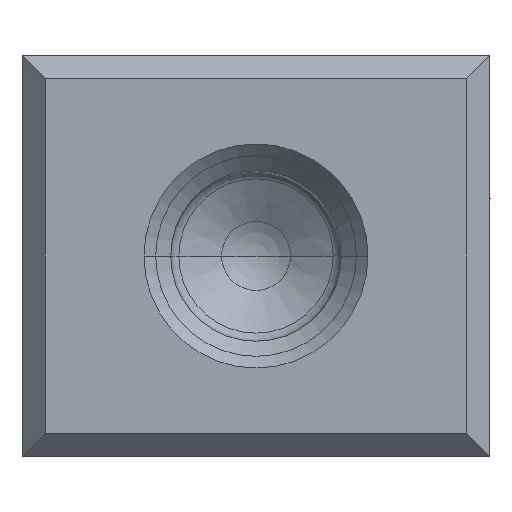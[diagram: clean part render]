
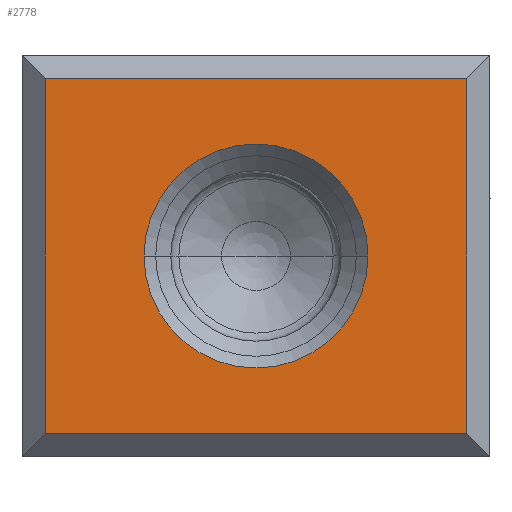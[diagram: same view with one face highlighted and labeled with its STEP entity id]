
A CAD part, left-side view. The second image highlights one B-rep face of the part: STEP entity #2778.
In plain terms, the highlighted planar face has unit normal (-1, 0, 0).
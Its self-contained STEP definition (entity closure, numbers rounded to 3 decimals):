
#476=DIRECTION('',(0.,1.,0.));
#477=VECTOR('',#476,12.6);
#478=CARTESIAN_POINT('',(-22.,0.7,5.3));
#479=LINE('',#478,#477);
#484=DIRECTION('',(0.,0.,-1.));
#485=VECTOR('',#484,10.6);
#486=CARTESIAN_POINT('',(-22.,0.7,5.3));
#487=LINE('',#486,#485);
#488=DIRECTION('',(0.,1.,0.));
#489=VECTOR('',#488,12.6);
#490=CARTESIAN_POINT('',(-22.,0.7,-5.3));
#491=LINE('',#490,#489);
#492=CARTESIAN_POINT('',(-22.,7.,0.));
#493=DIRECTION('',(-1.,0.,0.));
#494=DIRECTION('',(0.,1.,0.));
#495=AXIS2_PLACEMENT_3D('',#492,#493,#494);
#497=CARTESIAN_POINT('',(-22.,7.,0.));
#498=DIRECTION('',(-1.,0.,0.));
#499=DIRECTION('',(0.,-1.,0.));
#500=AXIS2_PLACEMENT_3D('',#497,#498,#499);
#863=DIRECTION('',(0.,0.,-1.));
#864=VECTOR('',#863,10.6);
#865=CARTESIAN_POINT('',(-22.,13.3,5.3));
#866=LINE('',#865,#864);
#1386=CARTESIAN_POINT('',(-22.,0.7,5.3));
#1387=CARTESIAN_POINT('',(-22.,13.3,5.3));
#1388=VERTEX_POINT('',#1386);
#1389=VERTEX_POINT('',#1387);
#1390=CARTESIAN_POINT('',(-22.,0.7,-5.3));
#1391=VERTEX_POINT('',#1390);
#1392=CARTESIAN_POINT('',(-22.,13.3,-5.3));
#1393=VERTEX_POINT('',#1392);
#1394=CARTESIAN_POINT('',(-22.,10.35,0.));
#1395=CARTESIAN_POINT('',(-22.,3.65,0.));
#1396=VERTEX_POINT('',#1394);
#1397=VERTEX_POINT('',#1395);
#2758=CARTESIAN_POINT('',(-22.,14.25,-7.25));
#2759=DIRECTION('',(-1.,0.,0.));
#2760=DIRECTION('',(0.,-1.,0.));
#2761=AXIS2_PLACEMENT_3D('',#2758,#2759,#2760);
#2762=PLANE('',#2761);
#2764=ORIENTED_EDGE('',*,*,#2763,.T.);
#2766=ORIENTED_EDGE('',*,*,#2765,.T.);
#2768=ORIENTED_EDGE('',*,*,#2767,.F.);
#2769=ORIENTED_EDGE('',*,*,#2748,.F.);
#2770=EDGE_LOOP('',(#2764,#2766,#2768,#2769));
#2771=FACE_OUTER_BOUND('',#2770,.F.);
#2773=ORIENTED_EDGE('',*,*,#2772,.T.);
#2775=ORIENTED_EDGE('',*,*,#2774,.T.);
#2776=EDGE_LOOP('',(#2773,#2775));
#2777=FACE_BOUND('',#2776,.F.);
#2778=ADVANCED_FACE('',(#2771,#2777),#2762,.T.);
#496=CIRCLE('',#495,3.35);
#501=CIRCLE('',#500,3.35);
#2748=EDGE_CURVE('',#1388,#1389,#479,.T.);
#2763=EDGE_CURVE('',#1388,#1391,#487,.T.);
#2765=EDGE_CURVE('',#1391,#1393,#491,.T.);
#2767=EDGE_CURVE('',#1389,#1393,#866,.T.);
#2772=EDGE_CURVE('',#1396,#1397,#496,.T.);
#2774=EDGE_CURVE('',#1397,#1396,#501,.T.);
